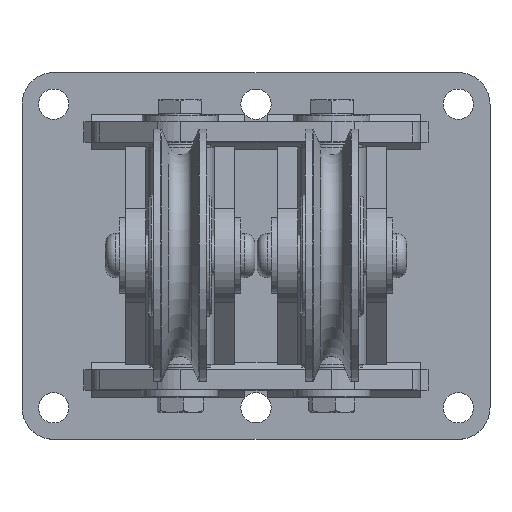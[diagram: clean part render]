
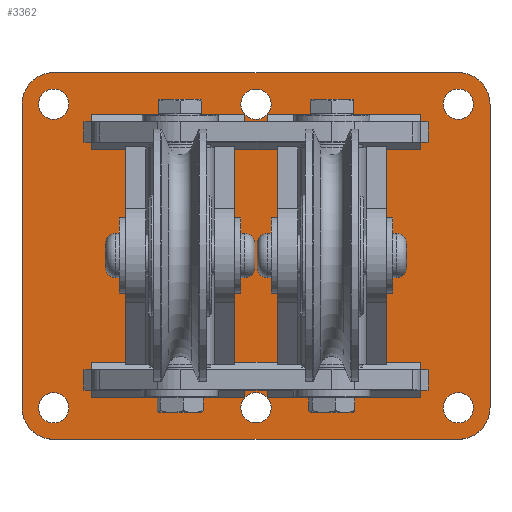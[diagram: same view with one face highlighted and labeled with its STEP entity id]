
A CAD part, top view. The second image highlights one B-rep face of the part: STEP entity #3362.
In plain terms, the highlighted planar face has unit normal (0, 0, 1).
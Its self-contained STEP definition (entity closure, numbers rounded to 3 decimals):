
#223=FACE_BOUND('',#826,.T.);
#224=FACE_BOUND('',#827,.T.);
#225=FACE_BOUND('',#828,.T.);
#226=FACE_BOUND('',#829,.T.);
#227=FACE_BOUND('',#830,.T.);
#228=FACE_BOUND('',#831,.T.);
#261=CIRCLE('',#3885,6.);
#262=CIRCLE('',#3886,6.);
#264=CIRCLE('',#3889,6.);
#265=CIRCLE('',#3890,6.);
#267=CIRCLE('',#3893,6.);
#268=CIRCLE('',#3894,6.);
#270=CIRCLE('',#3897,6.);
#271=CIRCLE('',#3898,6.);
#273=CIRCLE('',#3901,6.);
#274=CIRCLE('',#3902,6.);
#276=CIRCLE('',#3905,6.);
#277=CIRCLE('',#3906,6.);
#279=CIRCLE('',#3909,12.5);
#281=CIRCLE('',#3913,12.5);
#282=CIRCLE('',#3914,12.5);
#283=CIRCLE('',#3915,12.5);
#622=FACE_OUTER_BOUND('',#825,.T.);
#825=EDGE_LOOP('',(#2491,#2492,#2493,#2494,#2495,#2496,#2497,#2498));
#826=EDGE_LOOP('',(#2499,#2500));
#827=EDGE_LOOP('',(#2501,#2502));
#828=EDGE_LOOP('',(#2503,#2504));
#829=EDGE_LOOP('',(#2505,#2506));
#830=EDGE_LOOP('',(#2507,#2508));
#831=EDGE_LOOP('',(#2509,#2510));
#1106=LINE('',#5664,#1357);
#1109=LINE('',#5670,#1360);
#1110=LINE('',#5674,#1361);
#1111=LINE('',#5678,#1362);
#1357=VECTOR('',#4532,10.);
#1360=VECTOR('',#4537,10.);
#1361=VECTOR('',#4540,10.);
#1362=VECTOR('',#4543,10.);
#1570=VERTEX_POINT('',#5606);
#1571=VERTEX_POINT('',#5607);
#1573=VERTEX_POINT('',#5614);
#1574=VERTEX_POINT('',#5615);
#1576=VERTEX_POINT('',#5622);
#1577=VERTEX_POINT('',#5623);
#1579=VERTEX_POINT('',#5630);
#1580=VERTEX_POINT('',#5631);
#1582=VERTEX_POINT('',#5638);
#1583=VERTEX_POINT('',#5639);
#1585=VERTEX_POINT('',#5646);
#1586=VERTEX_POINT('',#5647);
#1588=VERTEX_POINT('',#5654);
#1589=VERTEX_POINT('',#5655);
#1592=VERTEX_POINT('',#5663);
#1594=VERTEX_POINT('',#5669);
#1595=VERTEX_POINT('',#5671);
#1596=VERTEX_POINT('',#5673);
#1597=VERTEX_POINT('',#5675);
#1598=VERTEX_POINT('',#5677);
#1909=EDGE_CURVE('',#1570,#1571,#261,.T.);
#1910=EDGE_CURVE('',#1571,#1570,#262,.T.);
#1913=EDGE_CURVE('',#1573,#1574,#264,.T.);
#1914=EDGE_CURVE('',#1574,#1573,#265,.T.);
#1917=EDGE_CURVE('',#1576,#1577,#267,.T.);
#1918=EDGE_CURVE('',#1577,#1576,#268,.T.);
#1921=EDGE_CURVE('',#1579,#1580,#270,.T.);
#1922=EDGE_CURVE('',#1580,#1579,#271,.T.);
#1925=EDGE_CURVE('',#1582,#1583,#273,.T.);
#1926=EDGE_CURVE('',#1583,#1582,#274,.T.);
#1929=EDGE_CURVE('',#1585,#1586,#276,.T.);
#1930=EDGE_CURVE('',#1586,#1585,#277,.T.);
#1933=EDGE_CURVE('',#1588,#1589,#279,.T.);
#1937=EDGE_CURVE('',#1592,#1589,#1106,.T.);
#1940=EDGE_CURVE('',#1588,#1594,#1109,.T.);
#1941=EDGE_CURVE('',#1595,#1594,#281,.T.);
#1942=EDGE_CURVE('',#1595,#1596,#1110,.T.);
#1943=EDGE_CURVE('',#1597,#1596,#282,.T.);
#1944=EDGE_CURVE('',#1597,#1598,#1111,.T.);
#1945=EDGE_CURVE('',#1592,#1598,#283,.T.);
#2491=ORIENTED_EDGE('',*,*,#1933,.F.);
#2492=ORIENTED_EDGE('',*,*,#1940,.T.);
#2493=ORIENTED_EDGE('',*,*,#1941,.F.);
#2494=ORIENTED_EDGE('',*,*,#1942,.T.);
#2495=ORIENTED_EDGE('',*,*,#1943,.F.);
#2496=ORIENTED_EDGE('',*,*,#1944,.T.);
#2497=ORIENTED_EDGE('',*,*,#1945,.F.);
#2498=ORIENTED_EDGE('',*,*,#1937,.T.);
#2499=ORIENTED_EDGE('',*,*,#1909,.T.);
#2500=ORIENTED_EDGE('',*,*,#1910,.T.);
#2501=ORIENTED_EDGE('',*,*,#1913,.T.);
#2502=ORIENTED_EDGE('',*,*,#1914,.T.);
#2503=ORIENTED_EDGE('',*,*,#1917,.T.);
#2504=ORIENTED_EDGE('',*,*,#1918,.T.);
#2505=ORIENTED_EDGE('',*,*,#1921,.T.);
#2506=ORIENTED_EDGE('',*,*,#1922,.T.);
#2507=ORIENTED_EDGE('',*,*,#1925,.T.);
#2508=ORIENTED_EDGE('',*,*,#1926,.T.);
#2509=ORIENTED_EDGE('',*,*,#1929,.T.);
#2510=ORIENTED_EDGE('',*,*,#1930,.T.);
#3232=PLANE('',#3912);
#3362=ADVANCED_FACE('',(#622,#223,#224,#225,#226,#227,#228),#3232,.T.);
#3885=AXIS2_PLACEMENT_3D('',#5608,#4470,#4471);
#3886=AXIS2_PLACEMENT_3D('',#5609,#4472,#4473);
#3889=AXIS2_PLACEMENT_3D('',#5616,#4479,#4480);
#3890=AXIS2_PLACEMENT_3D('',#5617,#4481,#4482);
#3893=AXIS2_PLACEMENT_3D('',#5624,#4488,#4489);
#3894=AXIS2_PLACEMENT_3D('',#5625,#4490,#4491);
#3897=AXIS2_PLACEMENT_3D('',#5632,#4497,#4498);
#3898=AXIS2_PLACEMENT_3D('',#5633,#4499,#4500);
#3901=AXIS2_PLACEMENT_3D('',#5640,#4506,#4507);
#3902=AXIS2_PLACEMENT_3D('',#5641,#4508,#4509);
#3905=AXIS2_PLACEMENT_3D('',#5648,#4515,#4516);
#3906=AXIS2_PLACEMENT_3D('',#5649,#4517,#4518);
#3909=AXIS2_PLACEMENT_3D('',#5656,#4524,#4525);
#3912=AXIS2_PLACEMENT_3D('',#5668,#4535,#4536);
#3913=AXIS2_PLACEMENT_3D('',#5672,#4538,#4539);
#3914=AXIS2_PLACEMENT_3D('',#5676,#4541,#4542);
#3915=AXIS2_PLACEMENT_3D('',#5679,#4544,#4545);
#4470=DIRECTION('center_axis',(0.,0.,-1.));
#4471=DIRECTION('ref_axis',(1.,0.,0.));
#4472=DIRECTION('center_axis',(0.,0.,-1.));
#4473=DIRECTION('ref_axis',(1.,0.,0.));
#4479=DIRECTION('center_axis',(0.,0.,-1.));
#4480=DIRECTION('ref_axis',(1.,0.,0.));
#4481=DIRECTION('center_axis',(0.,0.,-1.));
#4482=DIRECTION('ref_axis',(1.,0.,0.));
#4488=DIRECTION('center_axis',(0.,0.,-1.));
#4489=DIRECTION('ref_axis',(1.,0.,0.));
#4490=DIRECTION('center_axis',(0.,0.,-1.));
#4491=DIRECTION('ref_axis',(1.,0.,0.));
#4497=DIRECTION('center_axis',(0.,0.,-1.));
#4498=DIRECTION('ref_axis',(1.,0.,0.));
#4499=DIRECTION('center_axis',(0.,0.,-1.));
#4500=DIRECTION('ref_axis',(1.,0.,0.));
#4506=DIRECTION('center_axis',(0.,0.,-1.));
#4507=DIRECTION('ref_axis',(1.,0.,0.));
#4508=DIRECTION('center_axis',(0.,0.,-1.));
#4509=DIRECTION('ref_axis',(1.,0.,0.));
#4515=DIRECTION('center_axis',(0.,0.,-1.));
#4516=DIRECTION('ref_axis',(1.,0.,0.));
#4517=DIRECTION('center_axis',(0.,0.,-1.));
#4518=DIRECTION('ref_axis',(1.,0.,0.));
#4524=DIRECTION('center_axis',(0.,0.,-1.));
#4525=DIRECTION('ref_axis',(0.707,-0.707,0.));
#4532=DIRECTION('',(1.,0.,0.));
#4535=DIRECTION('center_axis',(0.,0.,1.));
#4536=DIRECTION('ref_axis',(1.,0.,0.));
#4537=DIRECTION('',(0.,1.,0.));
#4538=DIRECTION('center_axis',(0.,0.,-1.));
#4539=DIRECTION('ref_axis',(0.707,0.707,0.));
#4540=DIRECTION('',(-1.,0.,0.));
#4541=DIRECTION('center_axis',(0.,0.,-1.));
#4542=DIRECTION('ref_axis',(-0.707,0.707,0.));
#4543=DIRECTION('',(0.,-1.,0.));
#4544=DIRECTION('center_axis',(0.,0.,-1.));
#4545=DIRECTION('ref_axis',(-0.707,-0.707,0.));
#5606=CARTESIAN_POINT('',(6.,60.,10.));
#5607=CARTESIAN_POINT('',(-6.,60.,10.));
#5608=CARTESIAN_POINT('Origin',(0.,60.,10.));
#5609=CARTESIAN_POINT('Origin',(0.,60.,10.));
#5614=CARTESIAN_POINT('',(6.,-60.,10.));
#5615=CARTESIAN_POINT('',(-6.,-60.,10.));
#5616=CARTESIAN_POINT('Origin',(0.,-60.,10.));
#5617=CARTESIAN_POINT('Origin',(0.,-60.,10.));
#5622=CARTESIAN_POINT('',(86.,-60.,10.));
#5623=CARTESIAN_POINT('',(74.,-60.,10.));
#5624=CARTESIAN_POINT('Origin',(80.,-60.,10.));
#5625=CARTESIAN_POINT('Origin',(80.,-60.,10.));
#5630=CARTESIAN_POINT('',(-74.,60.,10.));
#5631=CARTESIAN_POINT('',(-86.,60.,10.));
#5632=CARTESIAN_POINT('Origin',(-80.,60.,10.));
#5633=CARTESIAN_POINT('Origin',(-80.,60.,10.));
#5638=CARTESIAN_POINT('',(86.,60.,10.));
#5639=CARTESIAN_POINT('',(74.,60.,10.));
#5640=CARTESIAN_POINT('Origin',(80.,60.,10.));
#5641=CARTESIAN_POINT('Origin',(80.,60.,10.));
#5646=CARTESIAN_POINT('',(-74.,-60.,10.));
#5647=CARTESIAN_POINT('',(-86.,-60.,10.));
#5648=CARTESIAN_POINT('Origin',(-80.,-60.,10.));
#5649=CARTESIAN_POINT('Origin',(-80.,-60.,10.));
#5654=CARTESIAN_POINT('',(92.5,-60.,10.));
#5655=CARTESIAN_POINT('',(80.,-72.5,10.));
#5656=CARTESIAN_POINT('Origin',(80.,-60.,10.));
#5663=CARTESIAN_POINT('',(-80.,-72.5,10.));
#5664=CARTESIAN_POINT('',(92.5,-72.5,10.));
#5668=CARTESIAN_POINT('Origin',(0.,0.,10.));
#5669=CARTESIAN_POINT('',(92.5,60.,10.));
#5670=CARTESIAN_POINT('',(92.5,72.5,10.));
#5671=CARTESIAN_POINT('',(80.,72.5,10.));
#5672=CARTESIAN_POINT('Origin',(80.,60.,10.));
#5673=CARTESIAN_POINT('',(-80.,72.5,10.));
#5674=CARTESIAN_POINT('',(-92.5,72.5,10.));
#5675=CARTESIAN_POINT('',(-92.5,60.,10.));
#5676=CARTESIAN_POINT('Origin',(-80.,60.,10.));
#5677=CARTESIAN_POINT('',(-92.5,-60.,10.));
#5678=CARTESIAN_POINT('',(-92.5,-72.5,10.));
#5679=CARTESIAN_POINT('Origin',(-80.,-60.,10.));
